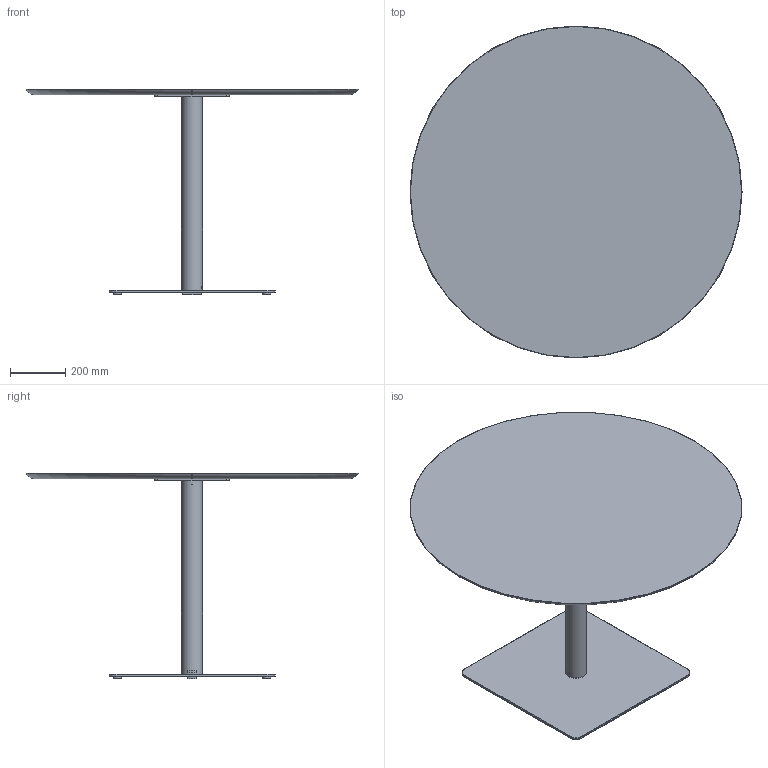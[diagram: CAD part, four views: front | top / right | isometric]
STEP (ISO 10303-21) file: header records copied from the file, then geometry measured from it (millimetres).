
FILE_DESCRIPTION( ('This file contains a STEP AP42 implementation' ,'as created by ZW3D STEP Interface translator.') ,'2;1' );
FILE_NAME( 'Henri - B_Carré - F1 - M3 - 1200 x 1200 x 750.stp' ,'24 912.1623 0', (''), ('ZWCAD Software Co.'), 'Version 1.0', 'ZW3D to STEP translator', '' );
FILE_SCHEMA(('AUTOMOTIVE_DESIGN { 1 0 10303 214 1 1 1 1 }'));
Length unit declared in the file: millimetre
Products named in the file (14): 0; PIED BISTROT PARAMETRIQUE_; COLONNE ACIER Ø76 V.02_; TUB-D076-02_; PLA-R76B-01_; CROIX ACIER 370 V.02_; CRX-X370-02_; SOCLE ACIER L 600x600 V.02_; SCL-R600-02_; PLA-R30A-01_; PLA-R30A-01; WUERTH 0276063020 Euro-screw 6.3x2 Verzinkt_; PLATEAU BISTROT PARAMETRIQUE_; insert_m6_13_
Assembly tree (22 placements, depth 3):
  0
  PIED BISTROT PARAMETRIQUE_
    COLONNE ACIER Ø76 V.02_
      TUB-D076-02_
      PLA-R76B-01_  x2
    CROIX ACIER 370 V.02_
      CRX-X370-02_
    SOCLE ACIER L 600x600 V.02_
      SCL-R600-02_
      PLA-R30A-01_
      PLA-R30A-01  x3
    WUERTH 0276063020 Euro-screw 6.3x2 Verzinkt_
    PLATEAU BISTROT PARAMETRIQUE_
      insert_m6_13_  x8
Bounding box: 1200 x 1200 x 744 mm (x, y, z)
Volume: 25860612.3 mm3; surface area: 3548874.3 mm2
Topology: 19 solids, 19 shells, 537 faces, 1310 edges, 822 vertices
Faces by surface type: plane 258, bspline 121, cylinder 102, cone 51, torus 5
Full cylindrical faces by diameter (mm): 4.88 x1, 6 x8, 6.3 x1, 8 x45, 12 x2, 14 x2, 30 x4, 72 x1, 76 x1
Entity records: 12318 total; most frequent: CARTESIAN_POINT 3396, ORIENTED_EDGE 1624, DIRECTION 1527, EDGE_CURVE 812, VERTEX_POINT 518, AXIS2_PLACEMENT_3D 511, VECTOR 505, LINE 505
